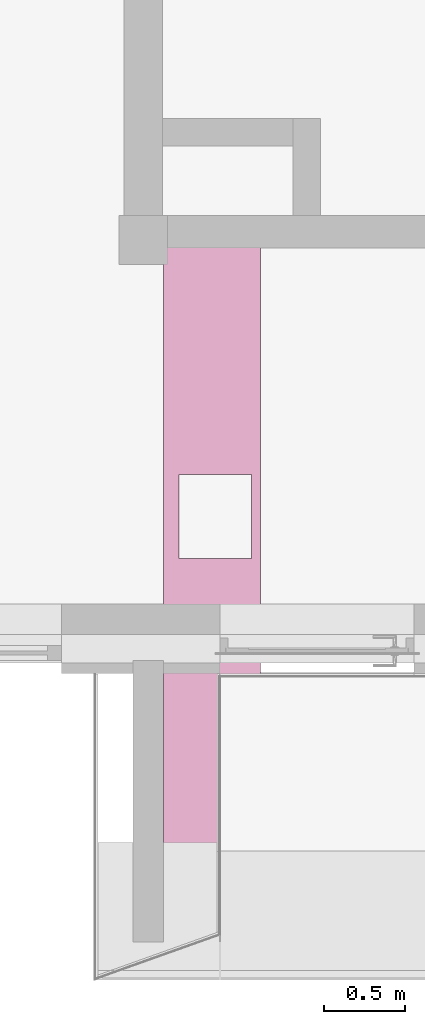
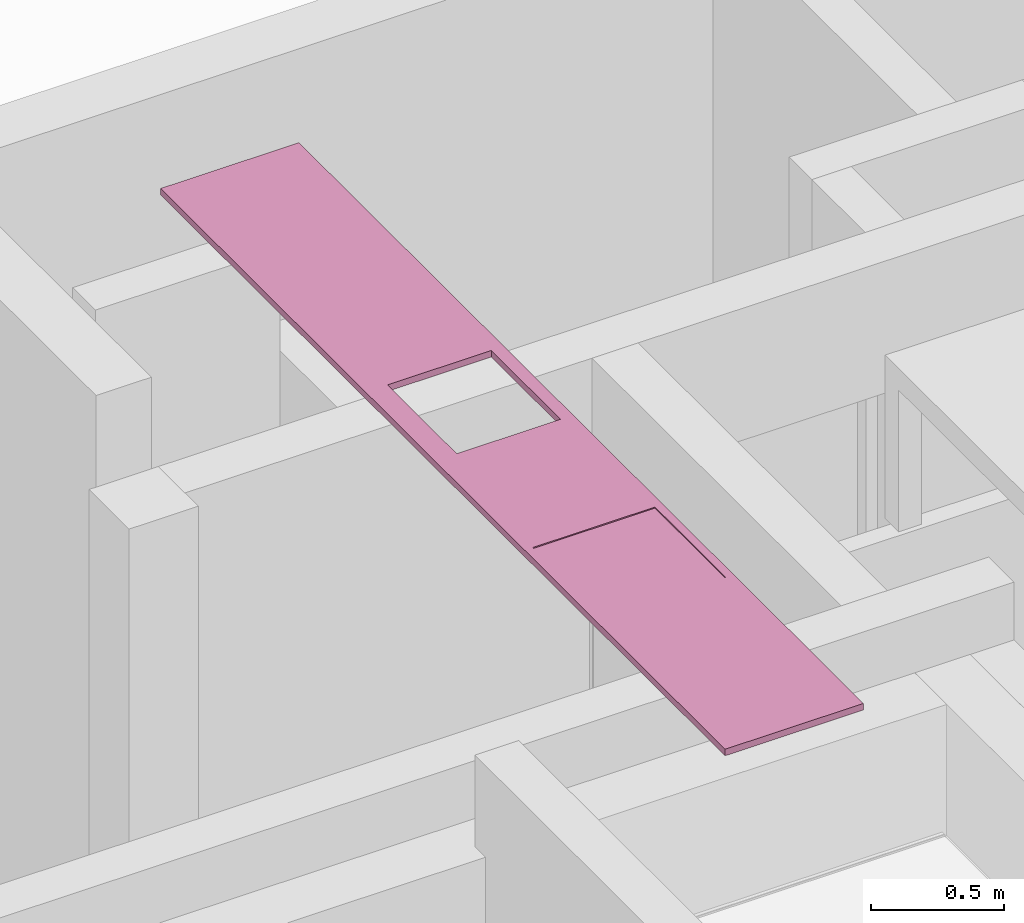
# One storey, part 20 of 55: 1 furnishing.
"""IFC2X3 building model written with IfcOpenShell, lengths in millimetres."""

from ifc_helpers import new_model, entity, si_unit, converted_unit, direction, frame, origin, place, context, subcontext, project, spatial, faceted_brep, source, transform, mapped, material, type_object, type_shapes, element, save


model = new_model("IFC2X3")

# Units and contexts
model_context = context("Model", 3, precision=0.01, world=origin(), true_north=direction((6.123233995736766e-17, 1.0)))
plan_context = context("Plan", 3, precision=0.01, world=origin(), true_north=direction((6.123233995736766e-17, 1.0)))
body_context = subcontext(model_context, "Body", "Model", "MODEL_VIEW")
ifc_project = project(units=[si_unit("LENGTHUNIT", "METRE", prefix="MILLI"), converted_unit("PLANEANGLEUNIT", "DEGREE", entity("IfcPlaneAngleMeasure", 0.017453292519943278), si_unit("PLANEANGLEUNIT", "RADIAN"), dimensions=[0, 0, 0, 0, 0, 0, 0]), si_unit("AREAUNIT", "SQUARE_METRE")], contexts=[model_context, plan_context])

# Site, building, storey, space
site_placement = place(None, origin())
site = spatial("IfcSite", under=ifc_project, at=site_placement, Name="Default", CompositionType="ELEMENT")
building_placement = place(site_placement, origin())
building = spatial("IfcBuilding", under=site, at=building_placement, CompositionType="ELEMENT")
storey_placement = place(building_placement, origin())
storey = spatial("IfcBuildingStorey", under=building, at=storey_placement, Name="1K", CompositionType="ELEMENT", Elevation=0.0)
space_placement = place(storey_placement, origin())
space = spatial("IfcSpace", under=storey, at=space_placement, Name="1-0.1", CompositionType="ELEMENT", InteriorOrExteriorSpace="INTERNAL")

# Furnishing
ifc_material = material(Name="<Unnamed>")
furniture_type = type_object("IfcFurnitureType", Name="HR_Casework_Work-surface_Generic_Rectangular_v1:Default", AssemblyPlace="NOTDEFINED", material=ifc_material)
shared_shape = source(origin(), body_context, "Body", "Brep", [
    faceted_brep([(5900.0, 0.0, 900.0), (5900.0, 4240.0, 900.0), (5300.0, 4240.0, 900.0), (5300.0, 0.0, 900.0), (5844.995060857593, 2700.0, 900.0), (5844.995060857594, 2180.0, 900.0), (5394.995060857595, 2180.0, 900.0), (5394.995060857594, 2700.0, 900.0), (5865.0, 1505.000040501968, 900.0), (5865.0, 975.0000405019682, 900.0), (5335.0, 975.0000405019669, 900.0), (5335.0, 1505.0000405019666, 900.0), (5900.0, 0.0, 870.0), (5300.0, 0.0, 870.0), (5300.0, 4240.0, 870.0), (5900.0, 4240.0, 870.0), (5844.995060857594, 2180.0, 870.0), (5844.995060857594, 2700.0, 870.0), (5394.995060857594, 2700.0, 870.0), (5394.995060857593, 2180.0, 870.0), (5865.0, 975.0000405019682, 895.0), (5865.0, 1505.000040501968, 895.0), (5335.0, 1505.0000405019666, 895.0), (5335.0, 975.0000405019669, 895.0)], [[[0, 1, 2, 3], [4, 5, 6, 7], [8, 9, 10, 11]], [[12, 13, 14, 15], [16, 17, 18, 19]], [[1, 0, 12, 15]], [[2, 1, 15, 14]], [[3, 2, 14, 13]], [[0, 3, 13, 12]], [[16, 5, 4, 17]], [[17, 4, 7, 18]], [[18, 7, 6, 19]], [[5, 16, 19, 6]], [[20, 21, 22, 23]], [[21, 20, 9, 8]], [[22, 21, 8, 11]], [[23, 22, 11, 10]], [[20, 23, 10, 9]]]),
])
type_shapes(furniture_type, [shared_shape])
furnishing_placement = place(space_placement, frame((0.0, 0.0, 3125.0)))
element("IfcFurnishingElement", 1, at=furnishing_placement, inside=space, type_object=furniture_type, material=ifc_material, Name="HR_Casework_Work-surface_Generic_Rectangular_v1:Default", ObjectType="HR_Casework_Work-surface_Generic_Rectangular_v1:Default", context=body_context, shape_type="MappedRepresentation", body=[
    mapped(shared_shape, transform((0.0, 0.0, 0.0), scale=1.0)),
])

save(model, "model.ifc")
